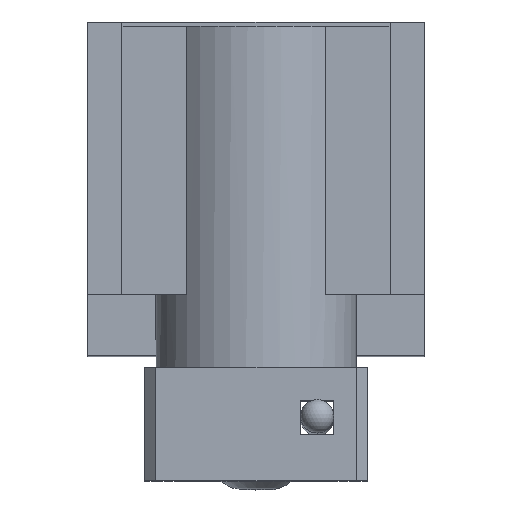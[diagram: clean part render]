
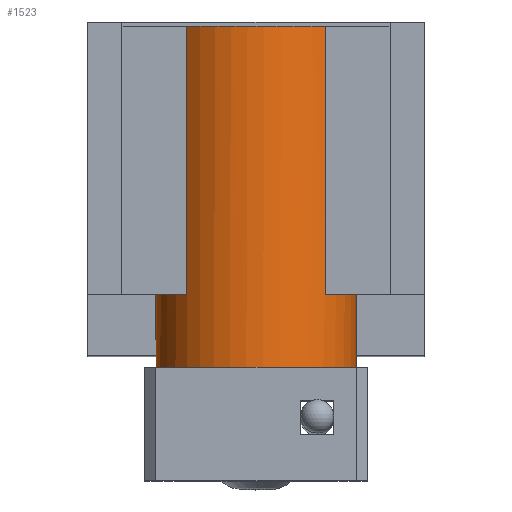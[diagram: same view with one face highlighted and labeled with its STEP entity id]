
A CAD part, top view. The second image highlights one B-rep face of the part: STEP entity #1523.
In plain terms, the highlighted cylindrical face has radius 9 mm (diameter 18 mm), a full revolution.
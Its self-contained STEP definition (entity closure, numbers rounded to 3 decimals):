
#1312=CARTESIAN_POINT('',(4.975,-9.5,63.));
#1313=VERTEX_POINT('',#1312);
#1314=CARTESIAN_POINT('',(-4.975,-9.5,63.));
#1315=VERTEX_POINT('',#1314);
#1316=CARTESIAN_POINT('',(0.,-9.5,70.5));
#1317=DIRECTION('',(0.0,1.0,0.0));
#1318=DIRECTION('',(-1.0,0.0,0.0));
#1319=AXIS2_PLACEMENT_3D('',#1316,#1317,#1318);
#1320=CIRCLE('',#1319,9.0);
#1321=EDGE_CURVE('',#1313,#1315,#1320,.T.);
#1345=CARTESIAN_POINT('',(-6.225,-9.5,77.0));
#1346=VERTEX_POINT('',#1345);
#1347=CARTESIAN_POINT('',(0.,-9.5,70.5));
#1348=DIRECTION('',(0.0,1.0,0.0));
#1349=DIRECTION('',(-1.0,0.0,0.0));
#1350=AXIS2_PLACEMENT_3D('',#1347,#1348,#1349);
#1351=CIRCLE('',#1350,9.0);
#1352=EDGE_CURVE('',#1315,#1346,#1351,.T.);
#1392=CARTESIAN_POINT('',(6.225,-9.5,77.0));
#1393=VERTEX_POINT('',#1392);
#1400=CARTESIAN_POINT('',(0.,-9.5,70.5));
#1401=DIRECTION('',(0.0,1.0,0.0));
#1402=DIRECTION('',(-1.0,0.0,0.0));
#1403=AXIS2_PLACEMENT_3D('',#1400,#1401,#1402);
#1404=CIRCLE('',#1403,9.0);
#1405=EDGE_CURVE('',#1393,#1313,#1404,.T.);
#1462=CARTESIAN_POINT('',(-6.225,14.6,77.));
#1463=VERTEX_POINT('',#1462);
#1470=CARTESIAN_POINT('',(6.225,14.6,77.));
#1471=VERTEX_POINT('',#1470);
#1472=CARTESIAN_POINT('',(0.,14.6,70.5));
#1473=DIRECTION('',(0.0,-1.0,0.0));
#1474=DIRECTION('',(-1.0,0.0,0.0));
#1475=AXIS2_PLACEMENT_3D('',#1472,#1473,#1474);
#1476=CIRCLE('',#1475,9.0);
#1477=EDGE_CURVE('',#1471,#1463,#1476,.T.);
#1489=CARTESIAN_POINT('',(0.,-9.5,70.5));
#1490=DIRECTION('',(0.0,-1.0,0.0));
#1491=DIRECTION('',(-1.0,0.0,0.0));
#1492=AXIS2_PLACEMENT_3D('',#1489,#1490,#1491);
#1493=CYLINDRICAL_SURFACE('',#1492,9.0);
#1494=CARTESIAN_POINT('',(6.225,14.6,77.));
#1495=DIRECTION('',(0.0,-1.0,0.0));
#1496=VECTOR('',#1495,24.1);
#1497=LINE('',#1494,#1496);
#1498=EDGE_CURVE('',#1471,#1393,#1497,.T.);
#1499=ORIENTED_EDGE('',*,*,#1498,.F.);
#1500=ORIENTED_EDGE('',*,*,#1477,.T.);
#1501=CARTESIAN_POINT('',(-6.225,-9.5,77.));
#1502=DIRECTION('',(0.0,1.0,0.0));
#1503=VECTOR('',#1502,24.1);
#1504=LINE('',#1501,#1503);
#1505=EDGE_CURVE('',#1346,#1463,#1504,.T.);
#1506=ORIENTED_EDGE('',*,*,#1505,.F.);
#1507=ORIENTED_EDGE('',*,*,#1352,.F.);
#1508=ORIENTED_EDGE('',*,*,#1321,.F.);
#1509=ORIENTED_EDGE('',*,*,#1405,.F.);
#1510=EDGE_LOOP('',(#1499,#1500,#1506,#1507,#1508,#1509));
#1511=FACE_OUTER_BOUND('',#1510,.T.);
#1512=CARTESIAN_POINT('',(9.,-16.1,70.5));
#1513=VERTEX_POINT('',#1512);
#1514=CARTESIAN_POINT('',(0.,-16.1,70.5));
#1515=DIRECTION('',(0.0,1.0,0.0));
#1516=DIRECTION('',(-1.0,0.0,0.0));
#1517=AXIS2_PLACEMENT_3D('',#1514,#1515,#1516);
#1518=CIRCLE('',#1517,9.0);
#1519=EDGE_CURVE('',#1513,#1513,#1518,.T.);
#1520=ORIENTED_EDGE('',*,*,#1519,.T.);
#1521=EDGE_LOOP('',(#1520));
#1522=FACE_BOUND('',#1521,.T.);
#1523=ADVANCED_FACE('',(#1511,#1522),#1493,.T.);
